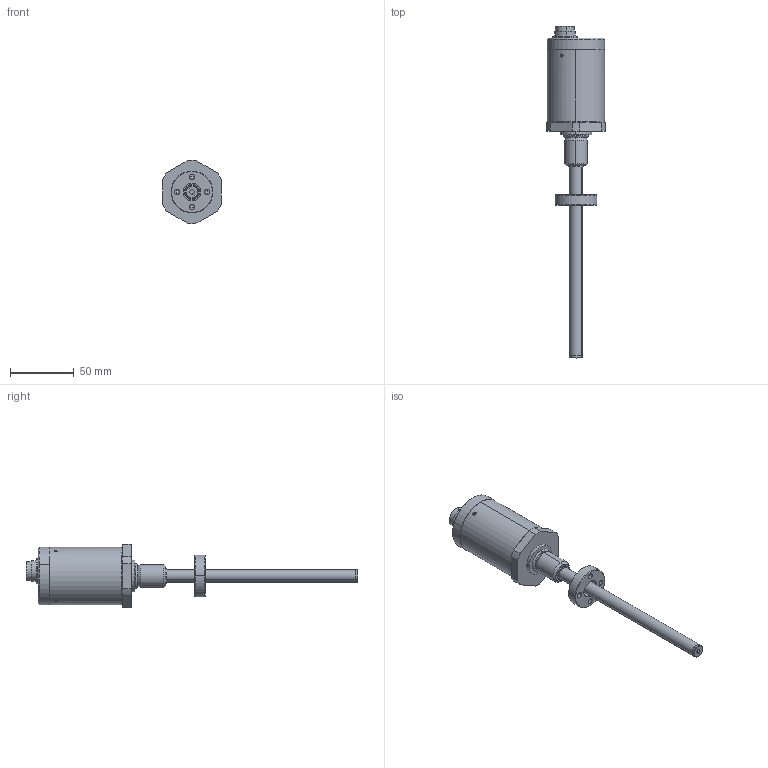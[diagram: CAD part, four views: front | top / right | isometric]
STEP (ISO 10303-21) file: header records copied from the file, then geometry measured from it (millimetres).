
FILE_DESCRIPTION (( 'STEP AP203' ), '1' );
FILE_NAME ('WRG-075-PLAM.STEP', '2018-12-17T13:44:57', ( '' ), ( '' ), 'SwSTEP 2.0', 'SolidWorks 2019', '' );
FILE_SCHEMA (( 'CONFIG_CONTROL_DESIGN' ));
Length unit declared in the file: millimetre
Products named in the file (8): CON033; WRG-075-PLAM; MIM292_MIM292; PTUBWP0075x_R1(08-08-12); TES471x_R2 (08-08-12); GUA064; PTES172x; CUR022x
Assembly tree (9 placements, depth 3):
  WRG-075-PLAM
    CUR022x
    PTES172x
      TES471x_R2 (08-08-12)
      CON033
    MIM292_MIM292  x3
    PTUBWP0075x_R1(08-08-12)
    GUA064
Bounding box: 46.05 x 260.7 x 49.98 mm (x, y, z)
Volume: 157719.5 mm3; surface area: 36871.3 mm2
Topology: 11 solids, 11 shells, 493 faces, 1226 edges, 773 vertices
Faces by surface type: plane 158, cylinder 145, cone 120, bspline 64, torus 6
Entity records: 16008 total; most frequent: CARTESIAN_POINT 5461, ORIENTED_EDGE 2008, DIRECTION 1994, EDGE_CURVE 1004, AXIS2_PLACEMENT_3D 744, VERTEX_POINT 643, VECTOR 506, LINE 506
